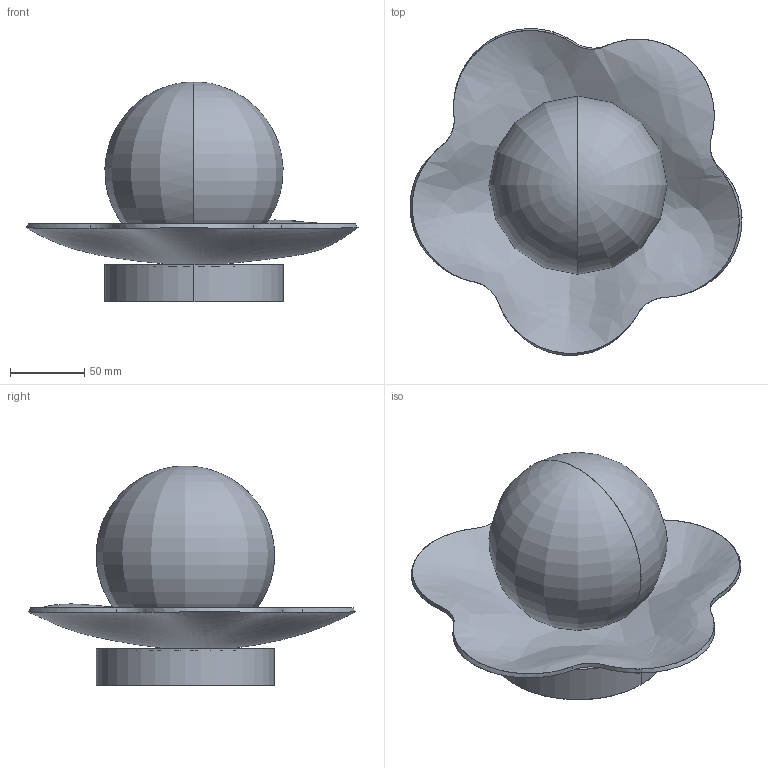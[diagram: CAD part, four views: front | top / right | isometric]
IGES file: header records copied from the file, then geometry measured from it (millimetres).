
Start section: SolidWorks IGES file using analytic representation for surfaces
Global section: file name: F:\燠隴矨\3D\2025-8\La fleur Wall Lamp.IGS,15; native system: HSolidWorks 2022; preprocessor: SolidWorks 2022; author: MyPC; date: 250818.173323; units: millimetre
Bounding box: 223.41 x 219.97 x 148 mm (x, y, z)
Surface area: 162574.5 mm2 (no closed solid volume)
Topology: 0 solids, 0 shells, 21 faces, 574 edges, 572 vertices
Faces by surface type: bspline 15, revolution 6
